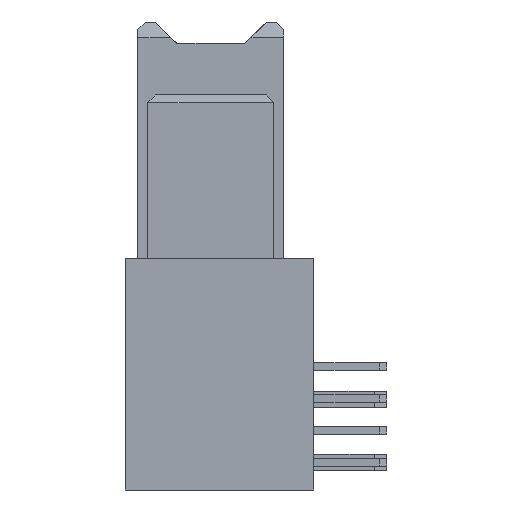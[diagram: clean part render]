
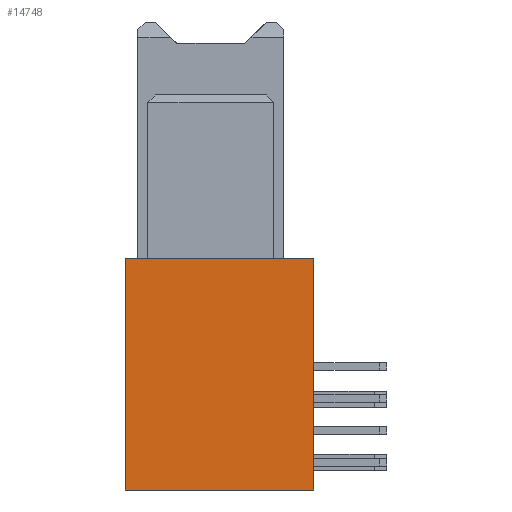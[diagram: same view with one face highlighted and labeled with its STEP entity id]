
A CAD part, left-side view. The second image highlights one B-rep face of the part: STEP entity #14748.
In plain terms, the highlighted planar face has unit normal (-1, 0, 0).
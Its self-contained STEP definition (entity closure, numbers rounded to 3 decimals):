
#1407 = DIRECTION ( 'NONE',  ( 0., 0., -1. ) ) ;
#1421 = CARTESIAN_POINT ( 'NONE',  ( -15.12, -5.43, -9.3 ) ) ;
#1527 = LINE ( 'NONE', #1421, #17047 ) ;
#1543 = CARTESIAN_POINT ( 'NONE',  ( -15.12, 2.02, -0.1 ) ) ;
#1633 = LINE ( 'NONE', #1649, #16919 ) ;
#1649 = CARTESIAN_POINT ( 'NONE',  ( -15.12, -5.48, -0.1 ) ) ;
#1810 = DIRECTION ( 'NONE',  ( 0., 0., -1. ) ) ;
#1909 = DIRECTION ( 'NONE',  ( 0., -1., 0. ) ) ;
#1987 = LINE ( 'NONE', #1543, #17080 ) ;
#10018 = CARTESIAN_POINT ( 'NONE',  ( -15.12, 2.02, -9.3 ) ) ;
#10194 = CARTESIAN_POINT ( 'NONE',  ( -15.12, -5.48, -9.3 ) ) ;
#10280 = CARTESIAN_POINT ( 'NONE',  ( -15.12, -5.48, -0.1 ) ) ;
#10493 = CARTESIAN_POINT ( 'NONE',  ( -15.12, 2.02, -0.1 ) ) ;
#11466 = LINE ( 'NONE', #11468, #16323 ) ;
#11468 = CARTESIAN_POINT ( 'NONE',  ( -15.12, 2.07, -0.1 ) ) ;
#11470 = DIRECTION ( 'NONE',  ( 0., -1., 0. ) ) ;
#14748 = ADVANCED_FACE ( 'NONE', ( #24247 ), #24981, .F. ) ;
#16323 = VECTOR ( 'NONE', #11470, 1000. ) ;
#16919 = VECTOR ( 'NONE', #1810, 1000. ) ;
#17047 = VECTOR ( 'NONE', #1909, 1000. ) ;
#17080 = VECTOR ( 'NONE', #1407, 1000. ) ;
#19092 = EDGE_CURVE ( 'NONE', #32673, #32684, #11466, .T. ) ;
#19884 = EDGE_CURVE ( 'NONE', #32673, #33369, #1987, .T. ) ;
#19904 = EDGE_CURVE ( 'NONE', #33369, #33057, #1527, .T. ) ;
#19972 = EDGE_CURVE ( 'NONE', #32684, #33057, #1633, .T. ) ;
#20530 = AXIS2_PLACEMENT_3D ( 'NONE', #24238, #24547, #24381 ) ;
#24238 = CARTESIAN_POINT ( 'NONE',  ( -15.12, 2.07, -0.1 ) ) ;
#24247 = FACE_OUTER_BOUND ( 'NONE', #26248, .T. ) ;
#24381 = DIRECTION ( 'NONE',  ( 0., 0., -1. ) ) ;
#24547 = DIRECTION ( 'NONE',  ( 1., 0., 0. ) ) ;
#24981 = PLANE ( 'NONE',  #20530 ) ;
#26248 = EDGE_LOOP ( 'NONE', ( #27112, #27113, #27114, #27115 ) ) ;
#27112 = ORIENTED_EDGE ( 'NONE', *, *, #19904, .T. ) ;
#27113 = ORIENTED_EDGE ( 'NONE', *, *, #19972, .F. ) ;
#27114 = ORIENTED_EDGE ( 'NONE', *, *, #19092, .F. ) ;
#27115 = ORIENTED_EDGE ( 'NONE', *, *, #19884, .T. ) ;
#32673 = VERTEX_POINT ( 'NONE', #10493 ) ;
#32684 = VERTEX_POINT ( 'NONE', #10280 ) ;
#33057 = VERTEX_POINT ( 'NONE', #10194 ) ;
#33369 = VERTEX_POINT ( 'NONE', #10018 ) ;
